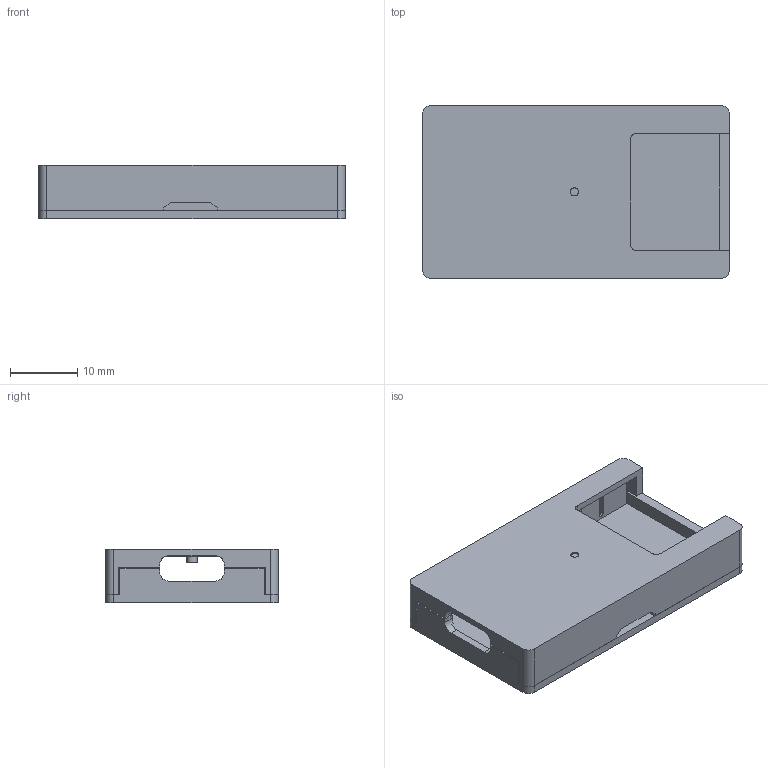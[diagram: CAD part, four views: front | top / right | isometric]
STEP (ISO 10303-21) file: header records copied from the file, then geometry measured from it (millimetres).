
FILE_DESCRIPTION(('Open CASCADE Model'),'2;1');
FILE_NAME('Open CASCADE Shape Model','2026-11-25T16:21:51',('Author'),( 'Open CASCADE'),'Open CASCADE STEP processor 7.9','Open CASCADE 7.9' ,'Unknown');
FILE_SCHEMA(('AUTOMOTIVE_DESIGN { 1 0 10303 214 1 1 1 1 }'));
Length unit declared in the file: millimetre
Products named in the file (3): LX0002 screwless case; Base; Lid
Assembly tree (2 placements, depth 2):
  LX0002 screwless case
    Base
    Lid
Bounding box: 45.45 x 25.6 x 7.9 mm (x, y, z)
Volume: 3340.1 mm3; surface area: 6857.3 mm2
Topology: 2 solids, 2 shells, 234 faces, 636 edges, 421 vertices
Faces by surface type: plane 189, cylinder 43, cone 1, extrusion 1
Full cylindrical faces by diameter (mm): 1.2 x1, 1.5 x1, 1.8 x1, 4.2 x1
Entity records: 16233 total; most frequent: CARTESIAN_POINT 3334, DIRECTION 2411, VECTOR 1747, LINE 1746, ORIENTED_EDGE 1272, PCURVE 1272, DEFINITIONAL_REPRESENTATION 1272, EDGE_CURVE 636
